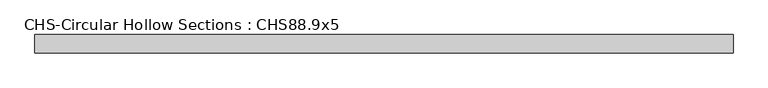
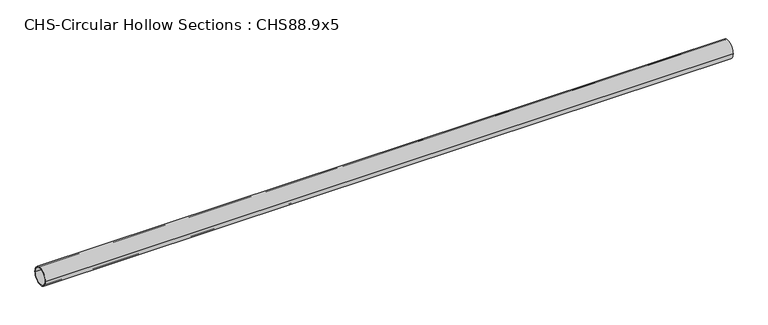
"""IFC4 building model written with IfcOpenShell, lengths in millimetres: beam geometry, CHS-Circular Hollow Sections : CHS88.9x5."""

import ifcopenshell
import ifcopenshell.guid

model = None  # the IFC model being written
_history = None  # IfcOwnerHistory: only IFC2X3 demands one
_inside = {}  # id of a spatial element -> (the spatial element, [elements in it])
_under = {}  # id of a project, library or spatial element -> (it, [spatial elements below it])
_declared = {}  # id of a project -> (the project, [libraries it declares])
_typed = {}  # id of a type object -> (the type object, [elements of that type])
_made_of = {}  # id of a material, layer set ... -> (it, [elements and type objects made of it])


def new_model(schema):
    """Start an empty IFC model of exactly this schema.

    Asked for "IFC4X3", IfcOpenShell would pick the latest addendum, in which some entities
    have other attributes; the version numbers below select the first issue.
    IFC2X3 requires an IfcOwnerHistory on every rooted entity: one is made here for all.
    """
    global model, _history
    if schema == "IFC4X3":
        model = ifcopenshell.file(schema_version=(4, 3, 0, 0))
    else:
        model = ifcopenshell.file(schema=schema)
    _inside.clear()
    _under.clear()
    _declared.clear()
    _typed.clear()
    _made_of.clear()
    _history = None
    if model.schema == "IFC2X3":
        org = make("IfcOrganization", Name="unknown")
        user = make(
            "IfcPersonAndOrganization",
            ThePerson=make("IfcPerson", FamilyName="unknown"),
            TheOrganization=org,
        )
        app = make(
            "IfcApplication",
            ApplicationDeveloper=org,
            Version="unknown",
            ApplicationFullName="unknown",
            ApplicationIdentifier="unknown",
        )
        _history = make(
            "IfcOwnerHistory",
            OwningUser=user,
            OwningApplication=app,
            ChangeAction="ADDED",
            CreationDate=0,
        )
    return model


def make(cls, **values):
    """One entity of the class cls with the attributes given. An attribute that is None is left unset."""
    return model.create_entity(
        cls, **{name: value for name, value in values.items() if value is not None}
    )


def rooted(cls, **values):
    """An entity with a GlobalId (a new one), such as an element, a storey or a relation."""
    return make(cls, GlobalId=ifcopenshell.guid.new(), OwnerHistory=_history, **values)


def si_unit(unit_type, name, prefix=None):
    """IfcSIUnit, for example si_unit("LENGTHUNIT", "METRE", prefix="MILLI")."""
    return make("IfcSIUnit", UnitType=unit_type, Prefix=prefix, Name=name)


def assignment(units):
    """IfcUnitAssignment: the units of a project."""
    return None if units is None else make("IfcUnitAssignment", Units=units)


def point(xyz):
    """IfcCartesianPoint."""
    return None if xyz is None else make("IfcCartesianPoint", Coordinates=xyz)


def direction(xyz):
    """IfcDirection."""
    return None if xyz is None else make("IfcDirection", DirectionRatios=xyz)


def frame(location, z_axis=None, x_axis=None):
    """IfcAxis2Placement3D, a coordinate frame: its origin and axes. An axis left out is left unset."""
    return make(
        "IfcAxis2Placement3D",
        Location=point(location),
        Axis=direction(z_axis),
        RefDirection=direction(x_axis),
    )


def frame_2d(location, x_axis=None):
    """IfcAxis2Placement2D, a coordinate frame in the plane: its origin and x axis."""
    return make(
        "IfcAxis2Placement2D", Location=point(location), RefDirection=direction(x_axis)
    )


def origin():
    """The frame at (0, 0, 0) with its axes left unset."""
    return frame((0.0, 0.0, 0.0))


def origin_2d():
    """The frame at (0, 0) in the plane with its x axis left unset."""
    return frame_2d((0.0, 0.0))


def place(relative_to, where):
    """IfcLocalPlacement: puts the frame where relative to a parent placement (None: the world)."""
    return make(
        "IfcLocalPlacement", PlacementRelTo=relative_to, RelativePlacement=where
    )


def context(
    kind, dimensions, precision=None, world=None, true_north=None, identifier=None
):
    """IfcGeometricRepresentationContext, for example the 3D "Model" context."""
    return make(
        "IfcGeometricRepresentationContext",
        ContextIdentifier=identifier,
        ContextType=kind,
        CoordinateSpaceDimension=dimensions,
        Precision=precision,
        WorldCoordinateSystem=world,
        TrueNorth=true_north,
    )


def project(units=None, contexts=None):
    """IfcProject with its units and contexts."""
    return rooted(
        "IfcProject",
        Name="project",
        RepresentationContexts=contexts,
        UnitsInContext=assignment(units),
    )


def spatial(cls, under=None, at=None, **own):
    """A site, building, storey or space (cls), placed at a placement, below another one or the project."""
    s = rooted(cls, ObjectPlacement=at, **own)
    if under is not None:
        _under.setdefault(under.id(), (under, []))[1].append(s)
    return s


def circle_curve(where, radius):
    """IfcCircle in the frame where."""
    return make("IfcCircle", Position=where, Radius=radius)


def trimmed(basis, trim1, trim2, sense, master):
    """IfcTrimmedCurve: the piece of a basis curve between two trims."""
    return make(
        "IfcTrimmedCurve",
        BasisCurve=basis,
        Trim1=trim1,
        Trim2=trim2,
        SenseAgreement=sense,
        MasterRepresentation=master,
    )


def segment(curve, same_sense, transition):
    """IfcCompositeCurveSegment."""
    return make(
        "IfcCompositeCurveSegment",
        Transition=transition,
        SameSense=same_sense,
        ParentCurve=curve,
    )


def composite_curve(segments, self_intersect=None):
    """IfcCompositeCurve: segments joined end to end."""
    return make("IfcCompositeCurve", Segments=segments, SelfIntersect=self_intersect)


def outline(outer, holes=None, kind="AREA"):
    """IfcArbitraryClosedProfileDef: a profile drawn as a closed curve; with holes, ...WithVoids."""
    if holes is None:
        return make("IfcArbitraryClosedProfileDef", ProfileType=kind, OuterCurve=outer)
    return make(
        "IfcArbitraryProfileDefWithVoids",
        ProfileType=kind,
        OuterCurve=outer,
        InnerCurves=holes,
    )


def extrude(swept, where, along, depth):
    """IfcExtrudedAreaSolid: the profile swept, set in the frame where, extruded along a direction by depth."""
    return make(
        "IfcExtrudedAreaSolid",
        SweptArea=swept,
        Position=where,
        ExtrudedDirection=direction(along),
        Depth=depth,
    )


def shape(context_of_items, identifier, shape_type, items):
    """IfcShapeRepresentation: the items that make up one representation, for example the "Body"."""
    return make(
        "IfcShapeRepresentation",
        ContextOfItems=context_of_items,
        RepresentationIdentifier=identifier,
        RepresentationType=shape_type,
        Items=items,
    )


def source(mapping_origin, context_of_items, identifier, shape_type, items):
    """IfcRepresentationMap: a shape defined once, which mapped items show again and again."""
    return make(
        "IfcRepresentationMap",
        MappingOrigin=mapping_origin,
        MappedRepresentation=shape(context_of_items, identifier, shape_type, items),
    )


def transform(
    local_origin,
    x_axis=None,
    y_axis=None,
    z_axis=None,
    scale=None,
    scale2=None,
    scale3=None,
    uniform=True,
):
    """IfcCartesianTransformationOperator3D, or its non-uniform kind. x_axis, y_axis, z_axis: its Axis1, 2, 3."""
    if uniform:
        return make(
            "IfcCartesianTransformationOperator3D",
            Axis1=direction(x_axis),
            Axis2=direction(y_axis),
            LocalOrigin=point(local_origin),
            Scale=scale,
            Axis3=direction(z_axis),
        )
    return make(
        "IfcCartesianTransformationOperator3DnonUniform",
        Axis1=direction(x_axis),
        Axis2=direction(y_axis),
        LocalOrigin=point(local_origin),
        Scale=scale,
        Axis3=direction(z_axis),
        Scale2=scale2,
        Scale3=scale3,
    )


def mapped(mapping_source, mapping_target):
    """IfcMappedItem: shows the shape of a source again, moved by a transform."""
    return make(
        "IfcMappedItem", MappingSource=mapping_source, MappingTarget=mapping_target
    )


def made_of(thing, what):
    """Note that an element or type object is made of a material, layer set ...; save() writes the relation."""
    if what is not None:
        _made_of.setdefault(what.id(), (what, []))[1].append(thing)
    return thing


def element(
    cls,
    number,
    at=None,
    inside=None,
    cuts=None,
    type_object=None,
    material=None,
    context=None,
    identifier="Body",
    shape_type=None,
    held_by="IfcProductDefinitionShape",
    body=None,
    shapes=None,
    **own,
):
    """One element of the class cls, such as IfcWall. Its Tag is "e" and its number.

    at: its placement. inside: the storey or other place that contains it. cuts: it is an
    opening in that element (IfcRelVoidsElement). A single representation is given by context,
    identifier, shape_type and body (its items); several are given by shapes. held_by: the class
    of the entity that holds the representations. save() writes the other relations.
    """
    e = rooted(cls, Tag="e%d" % number, ObjectPlacement=at, **own)
    if body is not None:
        shapes = [shape(context, identifier, shape_type, body)]
    if shapes is not None:
        e.Representation = make(held_by, Representations=shapes)
    if inside is not None:
        _inside.setdefault(inside.id(), (inside, []))[1].append(e)
    if cuts is not None:
        rooted(
            "IfcRelVoidsElement", RelatingBuildingElement=cuts, RelatedOpeningElement=e
        )
    if type_object is not None:
        _typed.setdefault(type_object.id(), (type_object, []))[1].append(e)
    return made_of(e, material)


def aggregate(whole, parts):
    """IfcRelAggregates: a whole, such as a stair, and the parts it consists of."""
    return rooted("IfcRelAggregates", RelatingObject=whole, RelatedObjects=parts)


def save(model, path):
    """Write the relations noted so far, then the file.

    IfcRelAggregates (storeys below a building ...), IfcRelContainedInSpatialStructure (elements
    in a storey), IfcRelDefinesByType, IfcRelAssociatesMaterial and IfcRelDeclares: one each for
    every whole, place, type object, material and project.
    """
    for whole, parts in _under.values():
        aggregate(whole, parts)
    for where, things in _inside.values():
        rooted(
            "IfcRelContainedInSpatialStructure",
            RelatedElements=things,
            RelatingStructure=where,
        )
    for kind, things in _typed.values():
        rooted("IfcRelDefinesByType", RelatedObjects=things, RelatingType=kind)
    for what, things in _made_of.values():
        rooted("IfcRelAssociatesMaterial", RelatedObjects=things, RelatingMaterial=what)
    for by, libraries in _declared.values():
        rooted("IfcRelDeclares", RelatingContext=by, RelatedDefinitions=libraries)
    model.write(path)


def chs_circular_hollow_sections_chs88_9x5_9bcd5b47(model_context):
    return source(origin(), model_context, "Body", "SweptSolid", [
        extrude(outline(composite_curve([segment(trimmed(circle_curve(origin_2d(), 44.45), [point((-44.45, 0.0))], [point((44.45, 0.0))], False, "CARTESIAN"), True, "CONTINUOUS"), segment(trimmed(circle_curve(origin_2d(), 44.45), [point((44.45, 0.0))], [point((-44.45, 0.0))], False, "CARTESIAN"), True, "CONTINUOUS")], self_intersect=False), holes=[composite_curve([segment(trimmed(circle_curve(origin_2d(), 39.45), [point((39.45, 0.0))], [point((-39.45, 0.0))], True, "CARTESIAN"), True, "CONTINUOUS"), segment(trimmed(circle_curve(origin_2d(), 39.45), [point((-39.45, 0.0))], [point((39.45, 0.0))], True, "CARTESIAN"), True, "CONTINUOUS")], self_intersect=False)]), frame((-1699.5, 0.0, 0.0), z_axis=(1.0, 0.0, 0.0), x_axis=(0.0, 1.0, 0.0)), (0.0, 0.0, 1.0), 3399.0),
    ])


if __name__ == "__main__":
    model = new_model("IFC4")
    model_context = context("Model", 3, world=origin())
    ifc_project = project(units=[si_unit("LENGTHUNIT", "METRE", prefix="MILLI")], contexts=[model_context])
    site = spatial("IfcSite", under=ifc_project)
    building = spatial("IfcBuilding", under=site)
    placement = place(None, origin())
    chs_circular_hollow_sections_chs88_9x5_shape = chs_circular_hollow_sections_chs88_9x5_9bcd5b47(model_context)
    element("IfcBeam", 1, ObjectType="CHS-Circular Hollow Sections : CHS88.9x5", at=placement, inside=building, context=model_context, shape_type="MappedRepresentation", body=[
        mapped(chs_circular_hollow_sections_chs88_9x5_shape, transform((0.0, 0.0, 0.0), x_axis=(1.0, 0.0, 0.0), y_axis=(0.0, 1.0, 0.0), z_axis=(0.0, 0.0, 1.0))),
    ])
    save(model, "model.ifc")
